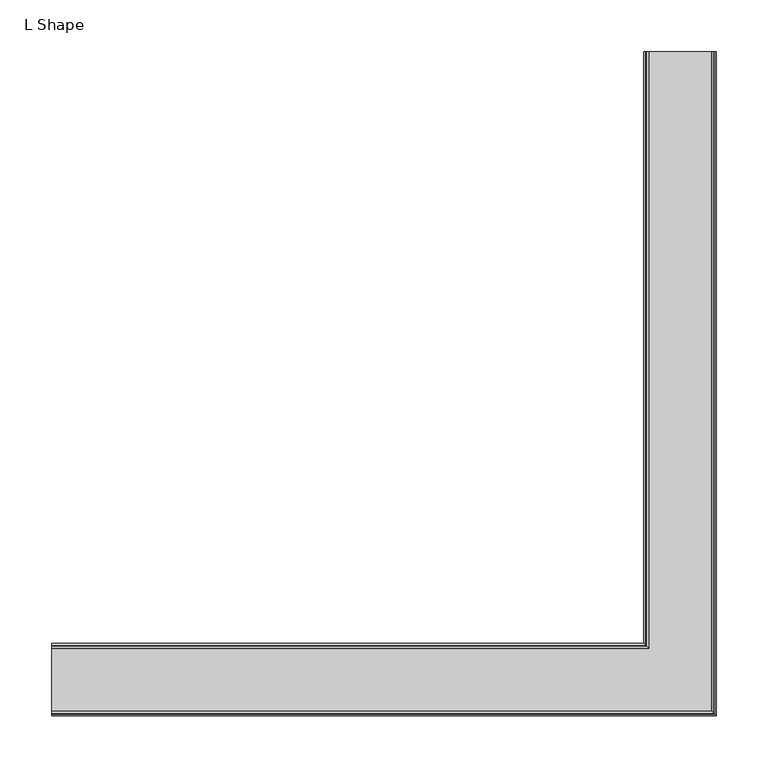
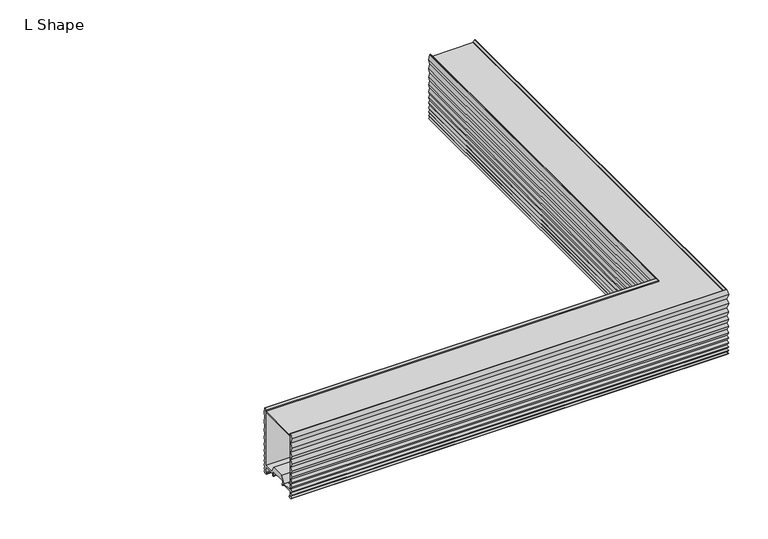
"""IFC4 building model written with IfcOpenShell, lengths in millimetres: light fixture geometry, Lighting-Ceiling-Betacalco-Bellows-L_Shape : L Shape."""

from ifc_helpers import new_model, si_unit, frame, origin, place, context, project, spatial, polyline, circle_curve, ellipse_curve, outline, extrude, source, transform, mapped, element, save
from ifc_brep_helpers import plane_surface, cylinder_surface, advanced_brep


def l_shape_645f54f3(model_context):
    return source(origin(), model_context, "Body", "SolidModel", [
        advanced_brep(
        [(273.578, 609.6, 10.668), (273.578, 609.6, 2.159), (276.1074155, 609.6, 2.159), (274.1622, 609.6, 0.0), (271.5112057, 609.6, 0.0), (269.6378379, 609.6, 2.0283861), (271.419, 609.6, 4.064), (269.641, 609.6, 6.604), (271.419, 609.6, 9.144), (269.641, 609.6, 12.192), (271.419, 609.6, 15.24), (269.641, 609.6, 18.796), (271.419, 609.6, 22.352), (269.641, 609.6, 26.162), (271.419, 609.6, 29.972), (269.6696413, 609.6, 34.4703509), (271.3917998, 609.6, 39.0460566), (269.6644945, 609.6, 44.1288728), (271.3965785, 609.6, 49.2119386), (269.6606035, 609.6, 54.802389), (271.4002163, 609.6, 60.3929656), (269.6575947, 609.6, 66.491104), (271.4035969, 609.6, 72.5911894), (269.6533208, 609.6, 79.7067168), (271.4068918, 609.6, 86.8195673), (269.6525087, 609.6, 94.186321), (271.4185068, 609.6, 101.6), (272.2122568, 609.6, 101.6), (274.37175, 609.6, 99.2470342), (274.37175, 609.6, 97.7961196), (273.578, 609.6, 97.7961196), (273.578, 609.6, 12.827), (289.3193854, 609.6, 12.827), (294.1777745, 609.6, 22.5473325), (315.4222255, 609.6, 22.5473325), (320.2806146, 609.6, 12.827), (336.022, 609.6, 12.827), (336.022, 609.6, 97.7961196), (335.22825, 609.6, 97.7961196), (335.22825, 609.6, 99.2470342), (337.3877432, 609.6, 101.6), (338.1814932, 609.6, 101.6), (339.9474913, 609.6, 94.186321), (338.1931082, 609.6, 86.8195673), (339.9466792, 609.6, 79.7067168), (338.1964031, 609.6, 72.5911894), (339.9424053, 609.6, 66.491104), (338.1997837, 609.6, 60.3929656), (339.9393965, 609.6, 54.802389), (338.2034215, 609.6, 49.2119386), (339.9355055, 609.6, 44.1288728), (338.2082002, 609.6, 39.0460566), (339.9303587, 609.6, 34.4703509), (338.181, 609.6, 29.972), (339.959, 609.6, 26.162), (338.181, 609.6, 22.352), (339.959, 609.6, 18.796), (338.181, 609.6, 15.24), (339.959, 609.6, 12.192), (338.181, 609.6, 9.144), (339.959, 609.6, 6.604), (338.181, 609.6, 4.064), (339.9621621, 609.6, 2.0283861), (338.0887943, 609.6, 0.0), (335.4378, 609.6, 0.0), (333.4925845, 609.6, 2.159), (336.022, 609.6, 2.159), (336.022, 609.6, 10.668), (318.3129289, 609.6, 10.668), (317.5429679, 609.6, 8.614822), (315.8552644, 609.6, 9.2406239), (317.48601, 609.6, 13.5891701), (316.8641563, 609.6, 14.8333325), (292.7358437, 609.6, 14.8333325), (292.11399, 609.6, 13.5891701), (293.7447356, 609.6, 9.2406239), (292.0570321, 609.6, 8.614822), (291.2870711, 609.6, 10.668), (-304.8, 31.222, 10.668), (-304.8, 13.5129289, 10.668), (-304.8, 12.7429679, 8.614822), (-304.8, 11.0552644, 9.2406239), (-304.8, 12.68601, 13.5891701), (-304.8, 12.0641563, 14.8333325), (-304.8, -12.0641563, 14.8333325), (-304.8, -12.68601, 13.5891701), (-304.8, -11.0552644, 9.2406239), (-304.8, -12.7429679, 8.614822), (-304.8, -13.5129289, 10.668), (-304.8, -31.222, 10.668), (-304.8, -31.222, 2.159), (-304.8, -28.6925845, 2.159), (-304.8, -30.6378, 0.0), (-304.8, -33.2887943, 0.0), (-304.8, -35.1621621, 2.0283861), (-304.8, -33.381, 4.064), (-304.8, -35.159, 6.604), (-304.8, -33.381, 9.144), (-304.8, -35.159, 12.192), (-304.8, -33.381, 15.24), (-304.8, -35.159, 18.796), (-304.8, -33.381, 22.352), (-304.8, -35.159, 26.162), (-304.8, -33.381, 29.972), (-304.8, -35.1303587, 34.4703509), (-304.8, -33.4082002, 39.0460566), (-304.8, -35.1355055, 44.1288728), (-304.8, -33.4034215, 49.2119386), (-304.8, -35.1393965, 54.802389), (-304.8, -33.3997837, 60.3929656), (-304.8, -35.1424053, 66.491104), (-304.8, -33.3964031, 72.5911894), (-304.8, -35.1466792, 79.7067168), (-304.8, -33.3931082, 86.8195673), (-304.8, -35.1474913, 94.186321), (-304.8, -33.3814932, 101.6), (-304.8, -32.5877432, 101.6), (-304.8, -30.42825, 99.2470342), (-304.8, -30.42825, 97.7961196), (-304.8, -31.222, 97.7961196), (-304.8, -31.222, 12.827), (-304.8, -15.4806146, 12.827), (-304.8, -10.6222255, 22.5473325), (-304.8, 10.6222255, 22.5473325), (-304.8, 15.4806146, 12.827), (-304.8, 31.222, 12.827), (-304.8, 31.222, 97.7961196), (-304.8, 30.42825, 97.7961196), (-304.8, 30.42825, 99.2470342), (-304.8, 32.5877432, 101.6), (-304.8, 33.3814932, 101.6), (-304.8, 35.1474913, 94.186321), (-304.8, 33.3931082, 86.8195673), (-304.8, 35.1466792, 79.7067168), (-304.8, 33.3964031, 72.5911894), (-304.8, 35.1424053, 66.491104), (-304.8, 33.3997837, 60.3929656), (-304.8, 35.1393965, 54.802389), (-304.8, 33.4034215, 49.2119386), (-304.8, 35.1355055, 44.1288728), (-304.8, 33.4082002, 39.0460566), (-304.8, 35.1303587, 34.4703509), (-304.8, 33.381, 29.972), (-304.8, 35.159, 26.162), (-304.8, 33.381, 22.352), (-304.8, 35.159, 18.796), (-304.8, 33.381, 15.24), (-304.8, 35.159, 12.192), (-304.8, 33.381, 9.144), (-304.8, 35.159, 6.604), (-304.8, 33.381, 4.064), (-304.8, 35.1621621, 2.0283861), (-304.8, 33.2887943, 0.0), (-304.8, 30.6378, 0.0), (-304.8, 28.6925845, 2.159), (-304.8, 31.222, 2.159), (292.0570321, 12.7429679, 8.614822), (291.2870711, 13.5129289, 10.668), (293.7447356, 11.0552644, 9.2406239), (292.11399, 12.68601, 13.5891701), (292.7358437, 12.0641563, 14.8333325), (317.48601, -12.68601, 13.5891701), (316.8641563, -12.0641563, 14.8333325), (315.8552644, -11.0552644, 9.2406239), (317.5429679, -12.7429679, 8.614822), (318.3129289, -13.5129289, 10.668), (336.022, -31.222, 2.159), (336.022, -31.222, 10.668), (335.4378, -30.6378, 0.0), (333.4925845, -28.6925845, 2.159), (339.9621621, -35.1621621, 2.0283861), (338.0887943, -33.2887943, 0.0), (338.181, -33.381, 4.064), (339.959, -35.159, 6.604), (338.181, -33.381, 9.144), (339.959, -35.159, 12.192), (338.181, -33.381, 15.24), (339.959, -35.159, 18.796), (338.181, -33.381, 22.352), (339.959, -35.159, 26.162), (338.181, -33.381, 29.972), (339.9303587, -35.1303587, 34.4703509), (338.2082002, -33.4082002, 39.0460566), (339.9355055, -35.1355055, 44.1288728), (338.2034215, -33.4034215, 49.2119386), (339.9393965, -35.1393965, 54.802389), (338.1997837, -33.3997837, 60.3929656), (339.9424053, -35.1424053, 66.491104), (338.1964031, -33.3964031, 72.5911894), (339.9466792, -35.1466792, 79.7067168), (338.1931082, -33.3931082, 86.8195673), (339.9474913, -35.1474913, 94.186321), (338.1814932, -33.3814932, 101.6), (335.22825, -30.42825, 99.2470342), (337.3877432, -32.5877432, 101.6), (335.22825, -30.42825, 97.7961196), (336.022, -31.222, 12.827), (336.022, -31.222, 97.7961196), (315.4222255, -10.6222255, 22.5473325), (320.2806146, -15.4806146, 12.827), (289.3193854, 15.4806146, 12.827), (294.1777745, 10.6222255, 22.5473325), (273.578, 31.222, 97.7961196), (273.578, 31.222, 12.827), (274.37175, 30.42825, 99.2470342), (274.37175, 30.42825, 97.7961196), (272.2122568, 32.5877432, 101.6), (269.6525087, 35.1474913, 94.186321), (271.4185068, 33.3814932, 101.6), (271.4068918, 33.3931082, 86.8195673), (269.6533208, 35.1466792, 79.7067168), (271.4035969, 33.3964031, 72.5911894), (269.6575947, 35.1424053, 66.491104), (271.4002163, 33.3997837, 60.3929656), (269.6606035, 35.1393965, 54.802389), (271.3965785, 33.4034215, 49.2119386), (269.6644945, 35.1355055, 44.1288728), (271.3917998, 33.4082002, 39.0460566), (269.6696413, 35.1303587, 34.4703509), (271.419, 33.381, 29.972), (269.641, 35.159, 26.162), (271.419, 33.381, 22.352), (269.641, 35.159, 18.796), (271.419, 33.381, 15.24), (269.641, 35.159, 12.192), (271.419, 33.381, 9.144), (269.641, 35.159, 6.604), (271.419, 33.381, 4.064), (269.6378379, 35.1621621, 2.0283861), (271.5112057, 33.2887943, 0.0), (276.1074155, 28.6925845, 2.159), (274.1622, 30.6378, 0.0), (273.578, 31.222, 10.668), (273.578, 31.222, 2.159)],
        [
            (0, 1),
            (1, 2),
            (2, 3, circle_curve(frame((274.1622, 609.6, 1.9558), z_axis=(0.0, 1.0, 0.0), x_axis=(0.0, 0.0, -1.0)), 1.9558)),
            (3, 4),
            (4, 5),
            (5, 6),
            (6, 7),
            (7, 8),
            (8, 9),
            (9, 10),
            (10, 11),
            (11, 12),
            (12, 13),
            (13, 14),
            (14, 15),
            (15, 16),
            (16, 17),
            (17, 18),
            (18, 19),
            (19, 20),
            (20, 21),
            (21, 22),
            (22, 23),
            (23, 24),
            (24, 25),
            (25, 26),
            (26, 27),
            (27, 28),
            (28, 29),
            (29, 30),
            (30, 31),
            (31, 32),
            (32, 33),
            (33, 34),
            (34, 35),
            (35, 36),
            (36, 37),
            (37, 38),
            (38, 39),
            (39, 40),
            (40, 41),
            (41, 42),
            (42, 43),
            (43, 44),
            (44, 45),
            (45, 46),
            (46, 47),
            (47, 48),
            (48, 49),
            (49, 50),
            (50, 51),
            (51, 52),
            (52, 53),
            (53, 54),
            (54, 55),
            (55, 56),
            (56, 57),
            (57, 58),
            (58, 59),
            (59, 60),
            (60, 61),
            (61, 62),
            (62, 63),
            (63, 64),
            (64, 65, circle_curve(frame((335.4378, 609.6, 1.9558), z_axis=(0.0, 1.0, 0.0), x_axis=(0.0, 0.0, -1.0)), 1.9558)),
            (65, 66),
            (66, 67),
            (67, 68),
            (68, 69),
            (69, 70, circle_curve(frame((316.7002723, 609.6, 8.9308408), z_axis=(0.0, 1.0, 0.0), x_axis=(-0.34325550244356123, 0.0, -0.9392420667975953)), 0.9000021)),
            (70, 71),
            (71, 72),
            (72, 73),
            (73, 74),
            (74, 75),
            (75, 76, circle_curve(frame((292.8997277, 609.6, 8.9308408), z_axis=(0.0, 1.0, 0.0), x_axis=(0.34325550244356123, 0.0, -0.9392420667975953)), 0.9000021)),
            (76, 77),
            (77, 0),
            (78, 79),
            (79, 80),
            (80, 81, circle_curve(frame((-304.8, 11.9002723, 8.9308408), z_axis=(-1.0, 0.0, 0.0), x_axis=(0.0, -0.34325550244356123, -0.9392420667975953)), 0.9000021)),
            (81, 82),
            (82, 83),
            (83, 84),
            (84, 85),
            (85, 86),
            (86, 87, circle_curve(frame((-304.8, -11.9002723, 8.9308408), z_axis=(-1.0, 0.0, 0.0), x_axis=(0.0, 0.34325550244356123, -0.9392420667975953)), 0.9000021)),
            (87, 88),
            (88, 89),
            (89, 90),
            (90, 91),
            (91, 92, circle_curve(frame((-304.8, -30.6378, 1.9558), z_axis=(-1.0, 0.0, 0.0), x_axis=(0.0, 0.0, -1.0)), 1.9558)),
            (92, 93),
            (93, 94),
            (94, 95),
            (95, 96),
            (96, 97),
            (97, 98),
            (98, 99),
            (99, 100),
            (100, 101),
            (101, 102),
            (102, 103),
            (103, 104),
            (104, 105),
            (105, 106),
            (106, 107),
            (107, 108),
            (108, 109),
            (109, 110),
            (110, 111),
            (111, 112),
            (112, 113),
            (113, 114),
            (114, 115),
            (115, 116),
            (116, 117),
            (117, 118),
            (118, 119),
            (119, 120),
            (120, 121),
            (121, 122),
            (122, 123),
            (123, 124),
            (124, 125),
            (125, 126),
            (126, 127),
            (127, 128),
            (128, 129),
            (129, 130),
            (130, 131),
            (131, 132),
            (132, 133),
            (133, 134),
            (134, 135),
            (135, 136),
            (136, 137),
            (137, 138),
            (138, 139),
            (139, 140),
            (140, 141),
            (141, 142),
            (142, 143),
            (143, 144),
            (144, 145),
            (145, 146),
            (146, 147),
            (147, 148),
            (148, 149),
            (149, 150),
            (150, 151),
            (151, 152),
            (152, 153),
            (153, 154, circle_curve(frame((-304.8, 30.6378, 1.9558), z_axis=(-1.0, 0.0, 0.0), x_axis=(0.0, 0.0, -1.0)), 1.9558)),
            (154, 155),
            (155, 78),
            (156, 80),
            (79, 157),
            (157, 156),
            (158, 81),
            (156, 158, ellipse_curve(frame((292.8997277, 11.9002723, 8.9308408), z_axis=(-0.7071067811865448, -0.7071067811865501, 0.0), x_axis=(0.7071067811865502, -0.7071067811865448, 0.0)), 1.2727952, 0.9000021)),
            (159, 82),
            (158, 159),
            (160, 83),
            (159, 160),
            (161, 85),
            (84, 162),
            (162, 161),
            (163, 86),
            (161, 163),
            (164, 87),
            (163, 164, ellipse_curve(frame((316.7002723, -11.9002723, 8.9308408), z_axis=(-0.7071067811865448, -0.7071067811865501, 0.0), x_axis=(0.7071067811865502, -0.7071067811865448, 0.0)), 1.2727952, 0.9000021)),
            (165, 88),
            (164, 165),
            (166, 90),
            (89, 167),
            (167, 166),
            (168, 92),
            (91, 169),
            (169, 168, ellipse_curve(frame((335.4378, -30.6378, 1.9558), z_axis=(-0.7071067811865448, -0.7071067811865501, 0.0), x_axis=(0.7071067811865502, -0.7071067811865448, 0.0)), 2.7659189, 1.9558)),
            (170, 94),
            (93, 171),
            (171, 170),
            (172, 95),
            (170, 172),
            (173, 96),
            (172, 173),
            (174, 97),
            (173, 174),
            (175, 98),
            (174, 175),
            (176, 99),
            (175, 176),
            (177, 100),
            (176, 177),
            (178, 101),
            (177, 178),
            (179, 102),
            (178, 179),
            (180, 103),
            (179, 180),
            (181, 104),
            (180, 181),
            (182, 105),
            (181, 182),
            (183, 106),
            (182, 183),
            (184, 107),
            (183, 184),
            (185, 108),
            (184, 185),
            (186, 109),
            (185, 186),
            (187, 110),
            (186, 187),
            (188, 111),
            (187, 188),
            (189, 112),
            (188, 189),
            (190, 113),
            (189, 190),
            (191, 114),
            (190, 191),
            (192, 115),
            (191, 192),
            (193, 117),
            (116, 194),
            (194, 193),
            (195, 118),
            (193, 195),
            (196, 120),
            (119, 197),
            (197, 196),
            (198, 122),
            (121, 199),
            (199, 198),
            (200, 124),
            (123, 201),
            (201, 200),
            (202, 126),
            (125, 203),
            (203, 202),
            (204, 128),
            (127, 205),
            (205, 204),
            (206, 129),
            (204, 206),
            (207, 131),
            (130, 208),
            (208, 207),
            (209, 132),
            (207, 209),
            (210, 133),
            (209, 210),
            (211, 134),
            (210, 211),
            (212, 135),
            (211, 212),
            (213, 136),
            (212, 213),
            (214, 137),
            (213, 214),
            (215, 138),
            (214, 215),
            (216, 139),
            (215, 216),
            (217, 140),
            (216, 217),
            (218, 141),
            (217, 218),
            (219, 142),
            (218, 219),
            (220, 143),
            (219, 220),
            (221, 144),
            (220, 221),
            (222, 145),
            (221, 222),
            (223, 146),
            (222, 223),
            (224, 147),
            (223, 224),
            (225, 148),
            (224, 225),
            (226, 149),
            (225, 226),
            (227, 150),
            (226, 227),
            (228, 151),
            (227, 228),
            (229, 152),
            (228, 229),
            (230, 154),
            (153, 231),
            (231, 230, ellipse_curve(frame((274.1622, 30.6378, 1.9558), z_axis=(-0.7071067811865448, -0.7071067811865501, 0.0), x_axis=(0.7071067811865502, -0.7071067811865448, 0.0)), 2.7659189, 1.9558)),
            (232, 78),
            (155, 233),
            (233, 232),
            (77, 157),
            (232, 0),
            (76, 156),
            (75, 158),
            (74, 159),
            (73, 160),
            (72, 162),
            (71, 161),
            (70, 163),
            (69, 164),
            (68, 165),
            (67, 167),
            (66, 166),
            (65, 169),
            (64, 168),
            (63, 171),
            (62, 170),
            (61, 172),
            (60, 173),
            (59, 174),
            (58, 175),
            (57, 176),
            (56, 177),
            (55, 178),
            (54, 179),
            (53, 180),
            (52, 181),
            (51, 182),
            (50, 183),
            (49, 184),
            (48, 185),
            (47, 186),
            (46, 187),
            (45, 188),
            (44, 189),
            (43, 190),
            (42, 191),
            (41, 192),
            (40, 194),
            (39, 193),
            (38, 195),
            (37, 197),
            (36, 196),
            (35, 199),
            (34, 198),
            (33, 201),
            (32, 200),
            (31, 203),
            (30, 202),
            (29, 205),
            (28, 204),
            (27, 206),
            (26, 208),
            (25, 207),
            (24, 209),
            (23, 210),
            (22, 211),
            (21, 212),
            (20, 213),
            (19, 214),
            (18, 215),
            (17, 216),
            (16, 217),
            (15, 218),
            (14, 219),
            (13, 220),
            (12, 221),
            (11, 222),
            (10, 223),
            (9, 224),
            (8, 225),
            (7, 226),
            (6, 227),
            (5, 228),
            (4, 229),
            (3, 231),
            (2, 230),
            (1, 233),
        ],
        [
            plane_surface(frame((304.8, 609.6, 0.0), z_axis=(0.0, 1.0, 0.0), x_axis=(0.0, 0.0, 1.0))),
            plane_surface(frame((-304.8, 0.0, 0.0), z_axis=(-1.0, 0.0, 0.0), x_axis=(0.0, 0.0, 1.0))),
            plane_surface(frame((291.2870711, 13.5129289, 10.668), z_axis=(0.0, 0.9363262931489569, -0.3511311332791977), x_axis=(-1.0, 0.0, 0.0))),
            cylinder_surface(frame((304.8, 11.9002723, 8.9308408), z_axis=(1.0, 0.0, 0.0), x_axis=(0.0, -0.34325550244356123, -0.9392420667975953)), 0.9000021),
            plane_surface(frame((293.7447356, 11.0552644, 9.2406239), z_axis=(0.0, -0.9363262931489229, 0.35113113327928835), x_axis=(-1.0, 0.0, 0.0))),
            plane_surface(frame((292.11399, 12.68601, 13.5891701), z_axis=(0.0, -0.89449260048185, -0.44708275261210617), x_axis=(-1.0, 0.0, 0.0))),
            plane_surface(frame((316.8641563, -12.0641563, 14.8333325), z_axis=(0.0, 0.89449260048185, -0.44708275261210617), x_axis=(-1.0, 0.0, 0.0))),
            plane_surface(frame((317.48601, -12.68601, 13.5891701), z_axis=(0.0, 0.9363262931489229, 0.35113113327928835), x_axis=(-1.0, 0.0, 0.0))),
            cylinder_surface(frame((304.8, -11.9002723, 8.9308408), z_axis=(1.0, 0.0, 0.0), x_axis=(0.0, 0.34325550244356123, -0.9392420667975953)), 0.9000021),
            plane_surface(frame((317.5429679, -12.7429679, 8.614822), z_axis=(0.0, -0.9363262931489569, -0.3511311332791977), x_axis=(-1.0, 0.0, 0.0))),
            plane_surface(frame((336.022, -31.222, 10.668), z_axis=(0.0, 1.0, 0.0), x_axis=(-1.0, 0.0, 0.0))),
            cylinder_surface(frame((304.8, -30.6378, 1.9558), z_axis=(1.0, 0.0, 0.0), x_axis=(0.0, 0.0, -1.0)), 1.9558),
            plane_surface(frame((338.0887943, -33.2887943, 0.0), z_axis=(0.0, -0.7346208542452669, -0.6784778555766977), x_axis=(-1.0, 0.0, 0.0))),
            plane_surface(frame((339.9621621, -35.1621621, 2.0283861), z_axis=(0.0, -0.75257669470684, 0.6585046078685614), x_axis=(-1.0, 0.0, 0.0))),
            plane_surface(frame((338.181, -33.381, 4.064), z_axis=(0.0, -0.8192319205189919, -0.5734623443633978), x_axis=(-1.0, 0.0, 0.0))),
            plane_surface(frame((339.959, -35.159, 6.604), z_axis=(0.0, -0.8192319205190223, 0.5734623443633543), x_axis=(-1.0, 0.0, 0.0))),
            plane_surface(frame((338.181, -33.381, 9.144), z_axis=(0.0, -0.8637789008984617, -0.503871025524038), x_axis=(-1.0, 0.0, 0.0))),
            plane_surface(frame((339.959, -35.159, 12.192), z_axis=(0.0, -0.8637789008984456, 0.5038710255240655), x_axis=(-1.0, 0.0, 0.0))),
            plane_surface(frame((338.181, -33.381, 15.24), z_axis=(0.0, -0.8944271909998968, -0.4472135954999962), x_axis=(-1.0, 0.0, 0.0))),
            plane_surface(frame((339.959, -35.159, 18.796), z_axis=(0.0, -0.8944271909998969, 0.44721359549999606), x_axis=(-1.0, 0.0, 0.0))),
            plane_surface(frame((338.181, -33.381, 22.352), z_axis=(0.0, -0.9061831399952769, -0.4228854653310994), x_axis=(-1.0, 0.0, 0.0))),
            plane_surface(frame((339.959, -35.159, 26.162), z_axis=(0.0, -0.9061831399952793, 0.4228854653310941), x_axis=(-1.0, 0.0, 0.0))),
            plane_surface(frame((338.181, -33.381, 29.972), z_axis=(0.0, -0.9320046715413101, -0.362446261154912), x_axis=(-1.0, 0.0, 0.0))),
            plane_surface(frame((339.9303587, -35.1303587, 34.4703509), z_axis=(0.0, -0.9359069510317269, 0.35224732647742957), x_axis=(-1.0, 0.0, 0.0))),
            plane_surface(frame((338.2082002, -33.4082002, 39.0460566), z_axis=(0.0, -0.9468211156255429, -0.3217604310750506), x_axis=(-1.0, 0.0, 0.0))),
            plane_surface(frame((339.9355055, -35.1355055, 44.1288728), z_axis=(0.0, -0.9465545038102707, 0.3225439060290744), x_axis=(-1.0, 0.0, 0.0))),
            plane_surface(frame((338.2034215, -33.4034215, 49.2119386), z_axis=(0.0, -0.9550153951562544, -0.2965562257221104), x_axis=(-1.0, 0.0, 0.0))),
            plane_surface(frame((339.9393965, -35.1393965, 54.802389), z_axis=(0.0, -0.9548411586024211, 0.29711674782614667), x_axis=(-1.0, 0.0, 0.0))),
            plane_surface(frame((338.1997837, -33.3997837, 60.3929656), z_axis=(0.0, -0.9615116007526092, -0.2747643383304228), x_axis=(-1.0, 0.0, 0.0))),
            plane_surface(frame((339.9424053, -35.1424053, 66.491104), z_axis=(0.0, -0.9613939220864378, 0.27517581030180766), x_axis=(-1.0, 0.0, 0.0))),
            plane_surface(frame((338.1964031, -33.3964031, 72.5911894), z_axis=(0.0, -0.971054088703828, -0.23885970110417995), x_axis=(-1.0, 0.0, 0.0))),
            plane_surface(frame((339.9466792, -35.1466792, 79.7067168), z_axis=(0.0, -0.9709287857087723, 0.23936852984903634), x_axis=(-1.0, 0.0, 0.0))),
            plane_surface(frame((338.1931082, -33.3931082, 86.8195673), z_axis=(0.0, -0.9727944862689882, -0.23166978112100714), x_axis=(-1.0, 0.0, 0.0))),
            plane_surface(frame((339.9474913, -35.1474913, 94.186321), z_axis=(0.0, -0.9727814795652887, 0.23172439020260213), x_axis=(-1.0, 0.0, 0.0))),
            plane_surface(frame((337.3877432, -32.5877432, 101.6), z_axis=(0.0, 0.7367472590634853, 0.6761682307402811), x_axis=(-1.0, 0.0, 0.0))),
            plane_surface(frame((335.22825, -30.42825, 99.2470342), z_axis=(0.0, 1.0, 0.0), x_axis=(-1.0, 0.0, 0.0))),
            plane_surface(frame((336.022, -31.222, 97.7961196), z_axis=(0.0, 1.0, 0.0), x_axis=(-1.0, 0.0, 0.0))),
            plane_surface(frame((320.2806146, -15.4806146, 12.827), z_axis=(0.0, -0.8944926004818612, 0.4470827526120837), x_axis=(-1.0, 0.0, 0.0))),
            plane_surface(frame((294.1777745, 10.6222255, 22.5473325), z_axis=(0.0, 0.8944926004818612, 0.4470827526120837), x_axis=(-1.0, 0.0, 0.0))),
            plane_surface(frame((273.578, 31.222, 12.827), z_axis=(0.0, -1.0, 0.0), x_axis=(-1.0, 0.0, 0.0))),
            plane_surface(frame((274.37175, 30.42825, 97.7961196), z_axis=(0.0, -1.0, 0.0), x_axis=(-1.0, 0.0, 0.0))),
            plane_surface(frame((274.37175, 30.42825, 99.2470342), z_axis=(0.0, -0.7367472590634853, 0.6761682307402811), x_axis=(-1.0, 0.0, 0.0))),
            plane_surface(frame((271.4185068, 33.3814932, 101.6), z_axis=(0.0, 0.9727814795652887, 0.23172439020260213), x_axis=(-1.0, 0.0, 0.0))),
            plane_surface(frame((269.6525087, 35.1474913, 94.186321), z_axis=(0.0, 0.9727944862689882, -0.23166978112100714), x_axis=(-1.0, 0.0, 0.0))),
            plane_surface(frame((271.4068918, 33.3931082, 86.8195673), z_axis=(0.0, 0.9709287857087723, 0.23936852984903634), x_axis=(-1.0, 0.0, 0.0))),
            plane_surface(frame((269.6533208, 35.1466792, 79.7067168), z_axis=(0.0, 0.971054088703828, -0.23885970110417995), x_axis=(-1.0, 0.0, 0.0))),
            plane_surface(frame((271.4035969, 33.3964031, 72.5911894), z_axis=(0.0, 0.9613939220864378, 0.27517581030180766), x_axis=(-1.0, 0.0, 0.0))),
            plane_surface(frame((269.6575947, 35.1424053, 66.491104), z_axis=(0.0, 0.9615116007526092, -0.2747643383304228), x_axis=(-1.0, 0.0, 0.0))),
            plane_surface(frame((271.4002163, 33.3997837, 60.3929656), z_axis=(0.0, 0.9548411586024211, 0.29711674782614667), x_axis=(-1.0, 0.0, 0.0))),
            plane_surface(frame((269.6606035, 35.1393965, 54.802389), z_axis=(0.0, 0.9550153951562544, -0.2965562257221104), x_axis=(-1.0, 0.0, 0.0))),
            plane_surface(frame((271.3965785, 33.4034215, 49.2119386), z_axis=(0.0, 0.9465545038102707, 0.3225439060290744), x_axis=(-1.0, 0.0, 0.0))),
            plane_surface(frame((269.6644945, 35.1355055, 44.1288728), z_axis=(0.0, 0.9468211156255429, -0.3217604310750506), x_axis=(-1.0, 0.0, 0.0))),
            plane_surface(frame((271.3917998, 33.4082002, 39.0460566), z_axis=(0.0, 0.9359069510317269, 0.35224732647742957), x_axis=(-1.0, 0.0, 0.0))),
            plane_surface(frame((269.6696413, 35.1303587, 34.4703509), z_axis=(0.0, 0.9320046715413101, -0.362446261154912), x_axis=(-1.0, 0.0, 0.0))),
            plane_surface(frame((271.419, 33.381, 29.972), z_axis=(0.0, 0.9061831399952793, 0.4228854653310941), x_axis=(-1.0, 0.0, 0.0))),
            plane_surface(frame((269.641, 35.159, 26.162), z_axis=(0.0, 0.9061831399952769, -0.4228854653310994), x_axis=(-1.0, 0.0, 0.0))),
            plane_surface(frame((271.419, 33.381, 22.352), z_axis=(0.0, 0.8944271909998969, 0.44721359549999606), x_axis=(-1.0, 0.0, 0.0))),
            plane_surface(frame((269.641, 35.159, 18.796), z_axis=(0.0, 0.8944271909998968, -0.4472135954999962), x_axis=(-1.0, 0.0, 0.0))),
            plane_surface(frame((271.419, 33.381, 15.24), z_axis=(0.0, 0.8637789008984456, 0.5038710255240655), x_axis=(-1.0, 0.0, 0.0))),
            plane_surface(frame((269.641, 35.159, 12.192), z_axis=(0.0, 0.8637789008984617, -0.503871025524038), x_axis=(-1.0, 0.0, 0.0))),
            plane_surface(frame((271.419, 33.381, 9.144), z_axis=(0.0, 0.8192319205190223, 0.5734623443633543), x_axis=(-1.0, 0.0, 0.0))),
            plane_surface(frame((269.641, 35.159, 6.604), z_axis=(0.0, 0.8192319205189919, -0.5734623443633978), x_axis=(-1.0, 0.0, 0.0))),
            plane_surface(frame((271.419, 33.381, 4.064), z_axis=(0.0, 0.75257669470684, 0.6585046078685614), x_axis=(-1.0, 0.0, 0.0))),
            plane_surface(frame((269.6378379, 35.1621621, 2.0283861), z_axis=(0.0, 0.7346208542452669, -0.6784778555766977), x_axis=(-1.0, 0.0, 0.0))),
            cylinder_surface(frame((304.8, 30.6378, 1.9558), z_axis=(1.0, 0.0, 0.0), x_axis=(0.0, 0.0, -1.0)), 1.9558),
            plane_surface(frame((273.578, 31.222, 2.159), z_axis=(0.0, -1.0, 0.0), x_axis=(-1.0, 0.0, 0.0))),
            plane_surface(frame((273.578, 609.6, 10.668), z_axis=(0.0, 0.0, -1.0), x_axis=(0.0, -1.0, 0.0))),
            plane_surface(frame((291.2870711, 609.6, 10.668), z_axis=(-0.9363262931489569, 0.0, -0.3511311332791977), x_axis=(0.0, -1.0, 0.0))),
            cylinder_surface(frame((292.8997277, 609.6, 8.9308408), z_axis=(0.0, 1.0, 0.0), x_axis=(0.34325550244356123, 0.0, -0.9392420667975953)), 0.9000021),
            plane_surface(frame((293.7447356, 609.6, 9.2406239), z_axis=(0.9363262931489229, 0.0, 0.35113113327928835), x_axis=(0.0, -1.0, 0.0))),
            plane_surface(frame((292.11399, 609.6, 13.5891701), z_axis=(0.89449260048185, 0.0, -0.44708275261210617), x_axis=(0.0, -1.0, 0.0))),
            plane_surface(frame((292.7358437, 609.6, 14.8333325), z_axis=(0.0, 0.0, -1.0), x_axis=(0.0, -1.0, 0.0))),
            plane_surface(frame((316.8641563, 609.6, 14.8333325), z_axis=(-0.89449260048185, 0.0, -0.44708275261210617), x_axis=(0.0, -1.0, 0.0))),
            plane_surface(frame((317.48601, 609.6, 13.5891701), z_axis=(-0.9363262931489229, 0.0, 0.35113113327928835), x_axis=(0.0, -1.0, 0.0))),
            cylinder_surface(frame((316.7002723, 609.6, 8.9308408), z_axis=(0.0, 1.0, 0.0), x_axis=(-0.34325550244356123, 0.0, -0.9392420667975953)), 0.9000021),
            plane_surface(frame((317.5429679, 609.6, 8.614822), z_axis=(0.9363262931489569, 0.0, -0.3511311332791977), x_axis=(0.0, -1.0, 0.0))),
            plane_surface(frame((318.3129289, 609.6, 10.668), z_axis=(0.0, 0.0, -1.0), x_axis=(0.0, -1.0, 0.0))),
            plane_surface(frame((336.022, 609.6, 10.668), z_axis=(-1.0, 0.0, 0.0), x_axis=(0.0, -1.0, 0.0))),
            plane_surface(frame((336.022, 609.6, 2.159), z_axis=(0.0, 0.0, 1.0), x_axis=(0.0, -1.0, 0.0))),
            cylinder_surface(frame((335.4378, 609.6, 1.9558), z_axis=(0.0, 1.0, 0.0), x_axis=(0.0, 0.0, -1.0)), 1.9558),
            plane_surface(frame((335.4378, 609.6, 0.0), z_axis=(0.0, 0.0, -1.0), x_axis=(0.0, -1.0, 0.0))),
            plane_surface(frame((338.0887943, 609.6, 0.0), z_axis=(0.7346208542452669, 0.0, -0.6784778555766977), x_axis=(0.0, -1.0, 0.0))),
            plane_surface(frame((339.9621621, 609.6, 2.0283861), z_axis=(0.75257669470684, 0.0, 0.6585046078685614), x_axis=(0.0, -1.0, 0.0))),
            plane_surface(frame((338.181, 609.6, 4.064), z_axis=(0.8192319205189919, 0.0, -0.5734623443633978), x_axis=(0.0, -1.0, 0.0))),
            plane_surface(frame((339.959, 609.6, 6.604), z_axis=(0.8192319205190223, 0.0, 0.5734623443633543), x_axis=(0.0, -1.0, 0.0))),
            plane_surface(frame((338.181, 609.6, 9.144), z_axis=(0.8637789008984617, 0.0, -0.503871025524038), x_axis=(0.0, -1.0, 0.0))),
            plane_surface(frame((339.959, 609.6, 12.192), z_axis=(0.8637789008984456, 0.0, 0.5038710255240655), x_axis=(0.0, -1.0, 0.0))),
            plane_surface(frame((338.181, 609.6, 15.24), z_axis=(0.8944271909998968, 0.0, -0.4472135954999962), x_axis=(0.0, -1.0, 0.0))),
            plane_surface(frame((339.959, 609.6, 18.796), z_axis=(0.8944271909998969, 0.0, 0.44721359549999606), x_axis=(0.0, -1.0, 0.0))),
            plane_surface(frame((338.181, 609.6, 22.352), z_axis=(0.9061831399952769, 0.0, -0.4228854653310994), x_axis=(0.0, -1.0, 0.0))),
            plane_surface(frame((339.959, 609.6, 26.162), z_axis=(0.9061831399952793, 0.0, 0.4228854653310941), x_axis=(0.0, -1.0, 0.0))),
            plane_surface(frame((338.181, 609.6, 29.972), z_axis=(0.9320046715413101, 0.0, -0.362446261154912), x_axis=(0.0, -1.0, 0.0))),
            plane_surface(frame((339.9303587, 609.6, 34.4703509), z_axis=(0.9359069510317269, 0.0, 0.35224732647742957), x_axis=(0.0, -1.0, 0.0))),
            plane_surface(frame((338.2082002, 609.6, 39.0460566), z_axis=(0.9468211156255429, 0.0, -0.3217604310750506), x_axis=(0.0, -1.0, 0.0))),
            plane_surface(frame((339.9355055, 609.6, 44.1288728), z_axis=(0.9465545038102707, 0.0, 0.3225439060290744), x_axis=(0.0, -1.0, 0.0))),
            plane_surface(frame((338.2034215, 609.6, 49.2119386), z_axis=(0.9550153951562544, 0.0, -0.2965562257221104), x_axis=(0.0, -1.0, 0.0))),
            plane_surface(frame((339.9393965, 609.6, 54.802389), z_axis=(0.9548411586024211, 0.0, 0.29711674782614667), x_axis=(0.0, -1.0, 0.0))),
            plane_surface(frame((338.1997837, 609.6, 60.3929656), z_axis=(0.9615116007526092, 0.0, -0.2747643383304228), x_axis=(0.0, -1.0, 0.0))),
            plane_surface(frame((339.9424053, 609.6, 66.491104), z_axis=(0.9613939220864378, 0.0, 0.27517581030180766), x_axis=(0.0, -1.0, 0.0))),
            plane_surface(frame((338.1964031, 609.6, 72.5911894), z_axis=(0.971054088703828, 0.0, -0.23885970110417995), x_axis=(0.0, -1.0, 0.0))),
            plane_surface(frame((339.9466792, 609.6, 79.7067168), z_axis=(0.9709287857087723, 0.0, 0.23936852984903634), x_axis=(0.0, -1.0, 0.0))),
            plane_surface(frame((338.1931082, 609.6, 86.8195673), z_axis=(0.9727944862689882, 0.0, -0.23166978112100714), x_axis=(0.0, -1.0, 0.0))),
            plane_surface(frame((339.9474913, 609.6, 94.186321), z_axis=(0.9727814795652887, 0.0, 0.23172439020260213), x_axis=(0.0, -1.0, 0.0))),
            plane_surface(frame((338.1814932, 609.6, 101.6), z_axis=(0.0, 0.0, 1.0), x_axis=(0.0, -1.0, 0.0))),
            plane_surface(frame((337.3877432, 609.6, 101.6), z_axis=(-0.7367472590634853, 0.0, 0.6761682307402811), x_axis=(0.0, -1.0, 0.0))),
            plane_surface(frame((335.22825, 609.6, 99.2470342), z_axis=(-1.0, 0.0, 0.0), x_axis=(0.0, -1.0, 0.0))),
            plane_surface(frame((335.22825, 609.6, 97.7961196), z_axis=(0.0, 0.0, -1.0), x_axis=(0.0, -1.0, 0.0))),
            plane_surface(frame((336.022, 609.6, 97.7961196), z_axis=(-1.0, 0.0, 0.0), x_axis=(0.0, -1.0, 0.0))),
            plane_surface(frame((336.022, 609.6, 12.827), z_axis=(0.0, 0.0, 1.0), x_axis=(0.0, -1.0, 0.0))),
            plane_surface(frame((320.2806146, 609.6, 12.827), z_axis=(0.8944926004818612, 0.0, 0.4470827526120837), x_axis=(0.0, -1.0, 0.0))),
            plane_surface(frame((315.4222255, 609.6, 22.5473325), z_axis=(0.0, 0.0, 1.0), x_axis=(0.0, -1.0, 0.0))),
            plane_surface(frame((294.1777745, 609.6, 22.5473325), z_axis=(-0.8944926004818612, 0.0, 0.4470827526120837), x_axis=(0.0, -1.0, 0.0))),
            plane_surface(frame((289.3193854, 609.6, 12.827), z_axis=(0.0, 0.0, 1.0), x_axis=(0.0, -1.0, 0.0))),
            plane_surface(frame((273.578, 609.6, 12.827), z_axis=(1.0, 0.0, 0.0), x_axis=(0.0, -1.0, 0.0))),
            plane_surface(frame((273.578, 609.6, 97.7961196), z_axis=(0.0, 0.0, -1.0), x_axis=(0.0, -1.0, 0.0))),
            plane_surface(frame((274.37175, 609.6, 97.7961196), z_axis=(1.0, 0.0, 0.0), x_axis=(0.0, -1.0, 0.0))),
            plane_surface(frame((274.37175, 609.6, 99.2470342), z_axis=(0.7367472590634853, 0.0, 0.6761682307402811), x_axis=(0.0, -1.0, 0.0))),
            plane_surface(frame((272.2122568, 609.6, 101.6), z_axis=(0.0, 0.0, 1.0), x_axis=(0.0, -1.0, 0.0))),
            plane_surface(frame((271.4185068, 609.6, 101.6), z_axis=(-0.9727814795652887, 0.0, 0.23172439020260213), x_axis=(0.0, -1.0, 0.0))),
            plane_surface(frame((269.6525087, 609.6, 94.186321), z_axis=(-0.9727944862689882, 0.0, -0.23166978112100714), x_axis=(0.0, -1.0, 0.0))),
            plane_surface(frame((271.4068918, 609.6, 86.8195673), z_axis=(-0.9709287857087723, 0.0, 0.23936852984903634), x_axis=(0.0, -1.0, 0.0))),
            plane_surface(frame((269.6533208, 609.6, 79.7067168), z_axis=(-0.971054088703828, 0.0, -0.23885970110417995), x_axis=(0.0, -1.0, 0.0))),
            plane_surface(frame((271.4035969, 609.6, 72.5911894), z_axis=(-0.9613939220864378, 0.0, 0.27517581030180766), x_axis=(0.0, -1.0, 0.0))),
            plane_surface(frame((269.6575947, 609.6, 66.491104), z_axis=(-0.9615116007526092, 0.0, -0.2747643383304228), x_axis=(0.0, -1.0, 0.0))),
            plane_surface(frame((271.4002163, 609.6, 60.3929656), z_axis=(-0.9548411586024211, 0.0, 0.29711674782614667), x_axis=(0.0, -1.0, 0.0))),
            plane_surface(frame((269.6606035, 609.6, 54.802389), z_axis=(-0.9550153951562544, 0.0, -0.2965562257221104), x_axis=(0.0, -1.0, 0.0))),
            plane_surface(frame((271.3965785, 609.6, 49.2119386), z_axis=(-0.9465545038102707, 0.0, 0.3225439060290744), x_axis=(0.0, -1.0, 0.0))),
            plane_surface(frame((269.6644945, 609.6, 44.1288728), z_axis=(-0.9468211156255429, 0.0, -0.3217604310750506), x_axis=(0.0, -1.0, 0.0))),
            plane_surface(frame((271.3917998, 609.6, 39.0460566), z_axis=(-0.9359069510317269, 0.0, 0.35224732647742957), x_axis=(0.0, -1.0, 0.0))),
            plane_surface(frame((269.6696413, 609.6, 34.4703509), z_axis=(-0.9320046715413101, 0.0, -0.362446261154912), x_axis=(0.0, -1.0, 0.0))),
            plane_surface(frame((271.419, 609.6, 29.972), z_axis=(-0.9061831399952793, 0.0, 0.4228854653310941), x_axis=(0.0, -1.0, 0.0))),
            plane_surface(frame((269.641, 609.6, 26.162), z_axis=(-0.9061831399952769, 0.0, -0.4228854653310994), x_axis=(0.0, -1.0, 0.0))),
            plane_surface(frame((271.419, 609.6, 22.352), z_axis=(-0.8944271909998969, 0.0, 0.44721359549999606), x_axis=(0.0, -1.0, 0.0))),
            plane_surface(frame((269.641, 609.6, 18.796), z_axis=(-0.8944271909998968, 0.0, -0.4472135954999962), x_axis=(0.0, -1.0, 0.0))),
            plane_surface(frame((271.419, 609.6, 15.24), z_axis=(-0.8637789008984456, 0.0, 0.5038710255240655), x_axis=(0.0, -1.0, 0.0))),
            plane_surface(frame((269.641, 609.6, 12.192), z_axis=(-0.8637789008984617, 0.0, -0.503871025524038), x_axis=(0.0, -1.0, 0.0))),
            plane_surface(frame((271.419, 609.6, 9.144), z_axis=(-0.8192319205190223, 0.0, 0.5734623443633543), x_axis=(0.0, -1.0, 0.0))),
            plane_surface(frame((269.641, 609.6, 6.604), z_axis=(-0.8192319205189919, 0.0, -0.5734623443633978), x_axis=(0.0, -1.0, 0.0))),
            plane_surface(frame((271.419, 609.6, 4.064), z_axis=(-0.75257669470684, 0.0, 0.6585046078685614), x_axis=(0.0, -1.0, 0.0))),
            plane_surface(frame((269.6378379, 609.6, 2.0283861), z_axis=(-0.7346208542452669, 0.0, -0.6784778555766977), x_axis=(0.0, -1.0, 0.0))),
            plane_surface(frame((271.5112057, 609.6, 0.0), z_axis=(0.0, 0.0, -1.0), x_axis=(0.0, -1.0, 0.0))),
            cylinder_surface(frame((274.1622, 609.6, 1.9558), z_axis=(0.0, 1.0, 0.0), x_axis=(0.0, 0.0, -1.0)), 1.9558),
            plane_surface(frame((276.1074155, 609.6, 2.159), z_axis=(0.0, 0.0, 1.0), x_axis=(0.0, -1.0, 0.0))),
            plane_surface(frame((273.578, 609.6, 2.159), z_axis=(1.0, 0.0, 0.0), x_axis=(0.0, -1.0, 0.0))),
        ],
        [
            (0, [[1, 2, 3, 4, 5, 6, 7, 8, 9, 10, 11, 12, 13, 14, 15, 16, 17, 18, 19, 20, 21, 22, 23, 24, 25, 26, 27, 28, 29, 30, 31, 32, 33, 34, 35, 36, 37, 38, 39, 40, 41, 42, 43, 44, 45, 46, 47, 48, 49, 50, 51, 52, 53, 54, 55, 56, 57, 58, 59, 60, 61, 62, 63, 64, 65, 66, 67, 68, 69, 70, 71, 72, 73, 74, 75, 76, 77, 78]]),
            (1, [[79, 80, 81, 82, 83, 84, 85, 86, 87, 88, 89, 90, 91, 92, 93, 94, 95, 96, 97, 98, 99, 100, 101, 102, 103, 104, 105, 106, 107, 108, 109, 110, 111, 112, 113, 114, 115, 116, 117, 118, 119, 120, 121, 122, 123, 124, 125, 126, 127, 128, 129, 130, 131, 132, 133, 134, 135, 136, 137, 138, 139, 140, 141, 142, 143, 144, 145, 146, 147, 148, 149, 150, 151, 152, 153, 154, 155, 156]]),
            (2, [[157, -80, 158, 159]]),
            (3, [[160, -81, -157, 161]]),
            (4, [[162, -82, -160, 163]]),
            (5, [[164, -83, -162, 165]]),
            (6, [[166, -85, 167, 168]]),
            (7, [[169, -86, -166, 170]]),
            (8, [[171, -87, -169, 172]]),
            (9, [[173, -88, -171, 174]]),
            (10, [[175, -90, 176, 177]]),
            (11, [[178, -92, 179, 180]]),
            (12, [[181, -94, 182, 183]]),
            (13, [[184, -95, -181, 185]]),
            (14, [[186, -96, -184, 187]]),
            (15, [[188, -97, -186, 189]]),
            (16, [[190, -98, -188, 191]]),
            (17, [[192, -99, -190, 193]]),
            (18, [[194, -100, -192, 195]]),
            (19, [[196, -101, -194, 197]]),
            (20, [[198, -102, -196, 199]]),
            (21, [[200, -103, -198, 201]]),
            (22, [[202, -104, -200, 203]]),
            (23, [[204, -105, -202, 205]]),
            (24, [[206, -106, -204, 207]]),
            (25, [[208, -107, -206, 209]]),
            (26, [[210, -108, -208, 211]]),
            (27, [[212, -109, -210, 213]]),
            (28, [[214, -110, -212, 215]]),
            (29, [[216, -111, -214, 217]]),
            (30, [[218, -112, -216, 219]]),
            (31, [[220, -113, -218, 221]]),
            (32, [[222, -114, -220, 223]]),
            (33, [[224, -115, -222, 225]]),
            (34, [[226, -117, 227, 228]]),
            (35, [[229, -118, -226, 230]]),
            (36, [[231, -120, 232, 233]]),
            (37, [[234, -122, 235, 236]]),
            (38, [[237, -124, 238, 239]]),
            (39, [[240, -126, 241, 242]]),
            (40, [[243, -128, 244, 245]]),
            (41, [[246, -129, -243, 247]]),
            (42, [[248, -131, 249, 250]]),
            (43, [[251, -132, -248, 252]]),
            (44, [[253, -133, -251, 254]]),
            (45, [[255, -134, -253, 256]]),
            (46, [[257, -135, -255, 258]]),
            (47, [[259, -136, -257, 260]]),
            (48, [[261, -137, -259, 262]]),
            (49, [[263, -138, -261, 264]]),
            (50, [[265, -139, -263, 266]]),
            (51, [[267, -140, -265, 268]]),
            (52, [[269, -141, -267, 270]]),
            (53, [[271, -142, -269, 272]]),
            (54, [[273, -143, -271, 274]]),
            (55, [[275, -144, -273, 276]]),
            (56, [[277, -145, -275, 278]]),
            (57, [[279, -146, -277, 280]]),
            (58, [[281, -147, -279, 282]]),
            (59, [[283, -148, -281, 284]]),
            (60, [[285, -149, -283, 286]]),
            (61, [[287, -150, -285, 288]]),
            (62, [[289, -151, -287, 290]]),
            (63, [[291, -152, -289, 292]]),
            (64, [[293, -154, 294, 295]]),
            (65, [[296, -156, 297, 298]]),
            (66, [[299, -158, -79, -296, 300, -78]]),
            (67, [[301, -159, -299, -77]]),
            (68, [[302, -161, -301, -76]]),
            (69, [[303, -163, -302, -75]]),
            (70, [[304, -165, -303, -74]]),
            (71, [[305, -167, -84, -164, -304, -73]]),
            (72, [[306, -168, -305, -72]]),
            (73, [[307, -170, -306, -71]]),
            (74, [[308, -172, -307, -70]]),
            (75, [[309, -174, -308, -69]]),
            (76, [[310, -176, -89, -173, -309, -68]]),
            (77, [[311, -177, -310, -67]]),
            (78, [[312, -179, -91, -175, -311, -66]]),
            (79, [[313, -180, -312, -65]]),
            (80, [[314, -182, -93, -178, -313, -64]]),
            (81, [[315, -183, -314, -63]]),
            (82, [[316, -185, -315, -62]]),
            (83, [[317, -187, -316, -61]]),
            (84, [[318, -189, -317, -60]]),
            (85, [[319, -191, -318, -59]]),
            (86, [[320, -193, -319, -58]]),
            (87, [[321, -195, -320, -57]]),
            (88, [[322, -197, -321, -56]]),
            (89, [[323, -199, -322, -55]]),
            (90, [[324, -201, -323, -54]]),
            (91, [[325, -203, -324, -53]]),
            (92, [[326, -205, -325, -52]]),
            (93, [[327, -207, -326, -51]]),
            (94, [[328, -209, -327, -50]]),
            (95, [[329, -211, -328, -49]]),
            (96, [[330, -213, -329, -48]]),
            (97, [[331, -215, -330, -47]]),
            (98, [[332, -217, -331, -46]]),
            (99, [[333, -219, -332, -45]]),
            (100, [[334, -221, -333, -44]]),
            (101, [[335, -223, -334, -43]]),
            (102, [[336, -225, -335, -42]]),
            (103, [[337, -227, -116, -224, -336, -41]]),
            (104, [[338, -228, -337, -40]]),
            (105, [[339, -230, -338, -39]]),
            (106, [[340, -232, -119, -229, -339, -38]]),
            (107, [[341, -233, -340, -37]]),
            (108, [[342, -235, -121, -231, -341, -36]]),
            (109, [[343, -236, -342, -35]]),
            (110, [[344, -238, -123, -234, -343, -34]]),
            (111, [[345, -239, -344, -33]]),
            (112, [[346, -241, -125, -237, -345, -32]]),
            (113, [[347, -242, -346, -31]]),
            (114, [[348, -244, -127, -240, -347, -30]]),
            (115, [[349, -245, -348, -29]]),
            (116, [[350, -247, -349, -28]]),
            (117, [[351, -249, -130, -246, -350, -27]]),
            (118, [[352, -250, -351, -26]]),
            (119, [[353, -252, -352, -25]]),
            (120, [[354, -254, -353, -24]]),
            (121, [[355, -256, -354, -23]]),
            (122, [[356, -258, -355, -22]]),
            (123, [[357, -260, -356, -21]]),
            (124, [[358, -262, -357, -20]]),
            (125, [[359, -264, -358, -19]]),
            (126, [[360, -266, -359, -18]]),
            (127, [[361, -268, -360, -17]]),
            (128, [[362, -270, -361, -16]]),
            (129, [[363, -272, -362, -15]]),
            (130, [[364, -274, -363, -14]]),
            (131, [[365, -276, -364, -13]]),
            (132, [[366, -278, -365, -12]]),
            (133, [[367, -280, -366, -11]]),
            (134, [[368, -282, -367, -10]]),
            (135, [[369, -284, -368, -9]]),
            (136, [[370, -286, -369, -8]]),
            (137, [[371, -288, -370, -7]]),
            (138, [[372, -290, -371, -6]]),
            (139, [[373, -292, -372, -5]]),
            (140, [[374, -294, -153, -291, -373, -4]]),
            (141, [[375, -295, -374, -3]]),
            (142, [[376, -297, -155, -293, -375, -2]]),
            (143, [[-300, -298, -376, -1]]),
        ],
    ),
        extrude(outline(polyline([(336.022, 609.6), (336.022, -31.222), (-304.8, -31.222), (-304.8, 31.222), (273.578, 31.222), (273.578, 609.6), (336.022, 609.6)])), frame((0.0, 0.0, 96.3991196), z_axis=(0.0, 0.0, 1.0), x_axis=(1.0, 0.0, 0.0)), (0.0, 0.0, 1.0), 1.397),
    ])


if __name__ == "__main__":
    model = new_model("IFC4")
    model_context = context("Model", 3, world=origin())
    ifc_project = project(units=[si_unit("LENGTHUNIT", "METRE", prefix="MILLI")], contexts=[model_context])
    site = spatial("IfcSite", under=ifc_project)
    building = spatial("IfcBuilding", under=site)
    placement = place(None, origin())
    l_shape_shape = l_shape_645f54f3(model_context)
    element("IfcLightFixture", 1, ObjectType="Lighting-Ceiling-Betacalco-Bellows-L_Shape : L Shape", at=placement, inside=building, context=model_context, shape_type="MappedRepresentation", body=[
        mapped(l_shape_shape, transform((0.0, 0.0, 0.0), x_axis=(1.0, 0.0, 0.0), y_axis=(0.0, 1.0, 0.0), z_axis=(0.0, 0.0, 1.0))),
    ])
    save(model, "model.ifc")
